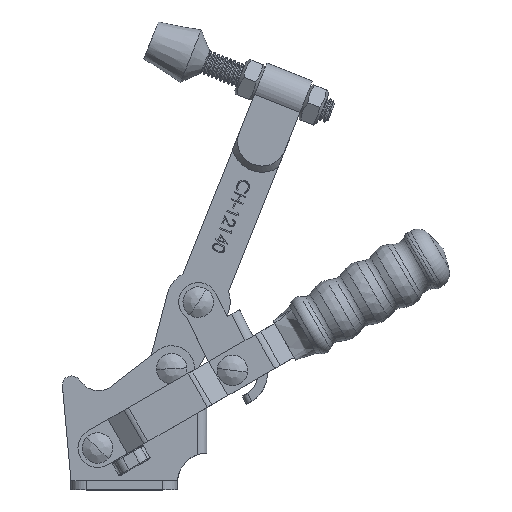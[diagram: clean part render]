
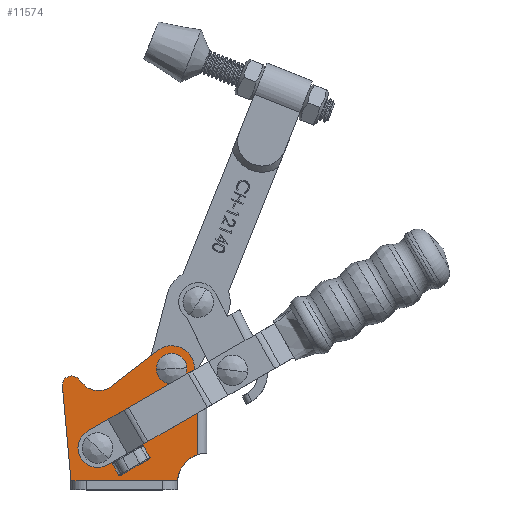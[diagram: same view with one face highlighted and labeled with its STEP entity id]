
A CAD part, top view. The second image highlights one B-rep face of the part: STEP entity #11574.
In plain terms, the highlighted planar face has unit normal (0, 0, 1).
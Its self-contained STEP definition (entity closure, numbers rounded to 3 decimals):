
#363=B_SPLINE_CURVE_WITH_KNOTS('',3,(#16172,#16173,#16174,#16175),
 .UNSPECIFIED.,.F.,.F.,(4,4),(-0.085,0.),.UNSPECIFIED.);
#364=B_SPLINE_CURVE_WITH_KNOTS('',3,(#16179,#16180,#16181,#16182),
 .UNSPECIFIED.,.F.,.F.,(4,4),(-0.278,-0.193),
 .UNSPECIFIED.);
#365=B_SPLINE_CURVE_WITH_KNOTS('',3,(#16186,#16187,#16188,#16189),
 .UNSPECIFIED.,.F.,.F.,(4,4),(-0.085,0.),.UNSPECIFIED.);
#366=B_SPLINE_CURVE_WITH_KNOTS('',3,(#16192,#16193,#16194,#16195),
 .UNSPECIFIED.,.F.,.F.,(4,4),(-0.278,-0.193),
 .UNSPECIFIED.);
#805=FACE_BOUND('',#1834,.T.);
#806=FACE_BOUND('',#1835,.T.);
#807=FACE_BOUND('',#1836,.T.);
#808=FACE_BOUND('',#1837,.T.);
#884=PLANE('',#12491);
#1182=FACE_OUTER_BOUND('',#1833,.T.);
#1833=EDGE_LOOP('',(#7927,#7928,#7929,#7930,#7931,#7932,#7933,#7934,#7935,
#7936,#7937,#7938));
#1834=EDGE_LOOP('',(#7939,#7940));
#1835=EDGE_LOOP('',(#7941,#7942));
#1836=EDGE_LOOP('',(#7943,#7944));
#1837=EDGE_LOOP('',(#7945,#7946,#7947,#7948,#7949,#7950,#7951,#7952));
#2570=LINE('',#16149,#3534);
#2571=LINE('',#16151,#3535);
#2572=LINE('',#16155,#3536);
#2573=LINE('',#16159,#3537);
#2574=LINE('',#16163,#3538);
#2575=LINE('',#16166,#3539);
#2576=LINE('',#16167,#3540);
#2577=LINE('',#16170,#3541);
#2578=LINE('',#16177,#3542);
#2579=LINE('',#16184,#3543);
#2580=LINE('',#16191,#3544);
#3534=VECTOR('',#13449,1000.);
#3535=VECTOR('',#13450,1000.);
#3536=VECTOR('',#13453,1000.);
#3537=VECTOR('',#13456,1000.);
#3538=VECTOR('',#13459,1000.);
#3539=VECTOR('',#13462,1000.);
#3540=VECTOR('',#13463,1000.);
#3541=VECTOR('',#13464,1000.);
#3542=VECTOR('',#13465,1000.);
#3543=VECTOR('',#13466,1000.);
#3544=VECTOR('',#13467,1000.);
#4501=CIRCLE('',#12466,3.);
#4503=CIRCLE('',#12469,1.95);
#4506=CIRCLE('',#12472,1.95);
#4507=CIRCLE('',#12474,3.2);
#4510=CIRCLE('',#12477,3.2);
#4511=CIRCLE('',#12479,3.2);
#4514=CIRCLE('',#12482,3.2);
#4521=CIRCLE('',#12492,9.5);
#4522=CIRCLE('',#12493,4.);
#4523=CIRCLE('',#12494,7.5);
#4524=CIRCLE('',#12495,7.);
#4864=VERTEX_POINT('',#16069);
#4865=VERTEX_POINT('',#16070);
#4868=VERTEX_POINT('',#16078);
#4869=VERTEX_POINT('',#16079);
#4872=VERTEX_POINT('',#16088);
#4873=VERTEX_POINT('',#16089);
#4876=VERTEX_POINT('',#16098);
#4877=VERTEX_POINT('',#16099);
#4898=VERTEX_POINT('',#16147);
#4899=VERTEX_POINT('',#16148);
#4900=VERTEX_POINT('',#16150);
#4901=VERTEX_POINT('',#16152);
#4902=VERTEX_POINT('',#16154);
#4903=VERTEX_POINT('',#16156);
#4904=VERTEX_POINT('',#16158);
#4905=VERTEX_POINT('',#16160);
#4906=VERTEX_POINT('',#16162);
#4907=VERTEX_POINT('',#16164);
#4908=VERTEX_POINT('',#16168);
#4909=VERTEX_POINT('',#16169);
#4910=VERTEX_POINT('',#16171);
#4911=VERTEX_POINT('',#16176);
#4912=VERTEX_POINT('',#16178);
#4913=VERTEX_POINT('',#16183);
#4914=VERTEX_POINT('',#16185);
#4915=VERTEX_POINT('',#16190);
#6081=EDGE_CURVE('',#4864,#4865,#4501,.T.);
#6085=EDGE_CURVE('',#4868,#4869,#4503,.T.);
#6089=EDGE_CURVE('',#4869,#4868,#4506,.T.);
#6090=EDGE_CURVE('',#4872,#4873,#4507,.T.);
#6094=EDGE_CURVE('',#4873,#4872,#4510,.T.);
#6095=EDGE_CURVE('',#4876,#4877,#4511,.T.);
#6099=EDGE_CURVE('',#4877,#4876,#4514,.T.);
#6119=EDGE_CURVE('',#4898,#4899,#2570,.T.);
#6120=EDGE_CURVE('',#4900,#4898,#2571,.T.);
#6121=EDGE_CURVE('',#4900,#4901,#4521,.T.);
#6122=EDGE_CURVE('',#4901,#4902,#2572,.T.);
#6123=EDGE_CURVE('',#4902,#4903,#4522,.T.);
#6124=EDGE_CURVE('',#4903,#4904,#2573,.T.);
#6125=EDGE_CURVE('',#4904,#4905,#4523,.T.);
#6126=EDGE_CURVE('',#4905,#4906,#2574,.T.);
#6127=EDGE_CURVE('',#4906,#4907,#4524,.T.);
#6128=EDGE_CURVE('',#4907,#4864,#2575,.T.);
#6129=EDGE_CURVE('',#4865,#4899,#2576,.T.);
#6130=EDGE_CURVE('',#4908,#4909,#2577,.T.);
#6131=EDGE_CURVE('',#4908,#4910,#363,.T.);
#6132=EDGE_CURVE('',#4910,#4911,#2578,.T.);
#6133=EDGE_CURVE('',#4911,#4912,#364,.T.);
#6134=EDGE_CURVE('',#4913,#4912,#2579,.T.);
#6135=EDGE_CURVE('',#4913,#4914,#365,.T.);
#6136=EDGE_CURVE('',#4914,#4915,#2580,.T.);
#6137=EDGE_CURVE('',#4915,#4909,#366,.T.);
#7927=ORIENTED_EDGE('',*,*,#6119,.F.);
#7928=ORIENTED_EDGE('',*,*,#6120,.F.);
#7929=ORIENTED_EDGE('',*,*,#6121,.T.);
#7930=ORIENTED_EDGE('',*,*,#6122,.T.);
#7931=ORIENTED_EDGE('',*,*,#6123,.T.);
#7932=ORIENTED_EDGE('',*,*,#6124,.T.);
#7933=ORIENTED_EDGE('',*,*,#6125,.T.);
#7934=ORIENTED_EDGE('',*,*,#6126,.T.);
#7935=ORIENTED_EDGE('',*,*,#6127,.T.);
#7936=ORIENTED_EDGE('',*,*,#6128,.T.);
#7937=ORIENTED_EDGE('',*,*,#6081,.T.);
#7938=ORIENTED_EDGE('',*,*,#6129,.T.);
#7939=ORIENTED_EDGE('',*,*,#6090,.F.);
#7940=ORIENTED_EDGE('',*,*,#6094,.F.);
#7941=ORIENTED_EDGE('',*,*,#6095,.F.);
#7942=ORIENTED_EDGE('',*,*,#6099,.F.);
#7943=ORIENTED_EDGE('',*,*,#6085,.F.);
#7944=ORIENTED_EDGE('',*,*,#6089,.F.);
#7945=ORIENTED_EDGE('',*,*,#6130,.F.);
#7946=ORIENTED_EDGE('',*,*,#6131,.T.);
#7947=ORIENTED_EDGE('',*,*,#6132,.T.);
#7948=ORIENTED_EDGE('',*,*,#6133,.T.);
#7949=ORIENTED_EDGE('',*,*,#6134,.F.);
#7950=ORIENTED_EDGE('',*,*,#6135,.T.);
#7951=ORIENTED_EDGE('',*,*,#6136,.T.);
#7952=ORIENTED_EDGE('',*,*,#6137,.T.);
#11574=ADVANCED_FACE('',(#1182,#805,#806,#807,#808),#884,.T.);
#12466=AXIS2_PLACEMENT_3D('',#16071,#13379,#13380);
#12469=AXIS2_PLACEMENT_3D('',#16080,#13387,#13388);
#12472=AXIS2_PLACEMENT_3D('',#16086,#13394,#13395);
#12474=AXIS2_PLACEMENT_3D('',#16090,#13398,#13399);
#12477=AXIS2_PLACEMENT_3D('',#16096,#13405,#13406);
#12479=AXIS2_PLACEMENT_3D('',#16100,#13409,#13410);
#12482=AXIS2_PLACEMENT_3D('',#16106,#13416,#13417);
#12491=AXIS2_PLACEMENT_3D('',#16146,#13447,#13448);
#12492=AXIS2_PLACEMENT_3D('',#16153,#13451,#13452);
#12493=AXIS2_PLACEMENT_3D('',#16157,#13454,#13455);
#12494=AXIS2_PLACEMENT_3D('',#16161,#13457,#13458);
#12495=AXIS2_PLACEMENT_3D('',#16165,#13460,#13461);
#13379=DIRECTION('center_axis',(0.,0.,1.));
#13380=DIRECTION('ref_axis',(1.,0.,0.));
#13387=DIRECTION('center_axis',(0.,0.,1.));
#13388=DIRECTION('ref_axis',(1.,0.,0.));
#13394=DIRECTION('center_axis',(0.,0.,1.));
#13395=DIRECTION('ref_axis',(1.,0.,0.));
#13398=DIRECTION('center_axis',(0.,0.,1.));
#13399=DIRECTION('ref_axis',(1.,0.,0.));
#13405=DIRECTION('center_axis',(0.,0.,1.));
#13406=DIRECTION('ref_axis',(1.,0.,0.));
#13409=DIRECTION('center_axis',(0.,0.,1.));
#13410=DIRECTION('ref_axis',(1.,0.,0.));
#13416=DIRECTION('center_axis',(0.,0.,1.));
#13417=DIRECTION('ref_axis',(1.,0.,0.));
#13447=DIRECTION('center_axis',(0.,0.,1.));
#13448=DIRECTION('ref_axis',(1.,0.,0.));
#13449=DIRECTION('',(-1.,0.,0.));
#13450=DIRECTION('',(0.,1.,0.));
#13451=DIRECTION('center_axis',(0.,0.,-1.));
#13452=DIRECTION('ref_axis',(1.,0.,0.));
#13453=DIRECTION('',(0.,1.,0.));
#13454=DIRECTION('center_axis',(0.,0.,-1.));
#13455=DIRECTION('ref_axis',(1.,0.,0.));
#13456=DIRECTION('',(0.,1.,0.));
#13457=DIRECTION('center_axis',(0.,0.,1.));
#13458=DIRECTION('ref_axis',(1.,0.,0.));
#13459=DIRECTION('',(-0.792,-0.611,0.));
#13460=DIRECTION('center_axis',(0.,0.,-1.));
#13461=DIRECTION('ref_axis',(1.,0.,0.));
#13462=DIRECTION('',(-0.677,0.736,0.));
#13463=DIRECTION('',(0.09,-0.996,0.));
#13464=DIRECTION('',(0.866,0.5,0.));
#13465=DIRECTION('',(-0.5,0.866,0.));
#13466=DIRECTION('',(-0.866,-0.5,0.));
#13467=DIRECTION('',(0.5,-0.866,0.));
#16069=CARTESIAN_POINT('',(-32.494,36.33,12.));
#16070=CARTESIAN_POINT('',(-37.691,34.031,12.));
#16071=CARTESIAN_POINT('Origin',(-34.703,34.3,12.));
#16078=CARTESIAN_POINT('',(-6.55,24.2,12.));
#16079=CARTESIAN_POINT('',(-2.65,24.2,12.));
#16080=CARTESIAN_POINT('Origin',(-4.6,24.2,12.));
#16086=CARTESIAN_POINT('Origin',(-4.6,24.2,12.));
#16088=CARTESIAN_POINT('',(-29.4,13.7,12.));
#16089=CARTESIAN_POINT('',(-23.,13.7,12.));
#16090=CARTESIAN_POINT('Origin',(-26.2,13.7,12.));
#16096=CARTESIAN_POINT('Origin',(-26.2,13.7,12.));
#16098=CARTESIAN_POINT('',(-5.1,39.7,12.));
#16099=CARTESIAN_POINT('',(1.3,39.7,12.));
#16100=CARTESIAN_POINT('Origin',(-1.9,39.7,12.));
#16106=CARTESIAN_POINT('Origin',(-1.9,39.7,12.));
#16146=CARTESIAN_POINT('Origin',(9.5,2.5,12.));
#16147=CARTESIAN_POINT('',(0.,3.,12.));
#16148=CARTESIAN_POINT('',(-34.9,3.,12.));
#16149=CARTESIAN_POINT('',(0.,3.,12.));
#16150=CARTESIAN_POINT('',(0.,2.5,12.));
#16151=CARTESIAN_POINT('',(0.,0.,12.));
#16152=CARTESIAN_POINT('',(6.6,11.547,12.));
#16153=CARTESIAN_POINT('Origin',(9.5,2.5,12.));
#16154=CARTESIAN_POINT('',(6.6,35.354,12.));
#16155=CARTESIAN_POINT('',(6.6,34.,12.));
#16156=CARTESIAN_POINT('',(5.6,38.,12.));
#16157=CARTESIAN_POINT('Origin',(9.6,38.,12.));
#16158=CARTESIAN_POINT('',(5.6,39.7,12.));
#16159=CARTESIAN_POINT('',(5.6,39.7,12.));
#16160=CARTESIAN_POINT('',(-6.481,45.639,12.));
#16161=CARTESIAN_POINT('Origin',(-1.9,39.7,12.));
#16162=CARTESIAN_POINT('',(-21.625,33.957,12.));
#16163=CARTESIAN_POINT('',(-21.625,33.957,12.));
#16164=CARTESIAN_POINT('',(-31.053,34.763,12.));
#16165=CARTESIAN_POINT('Origin',(-25.9,39.5,12.));
#16166=CARTESIAN_POINT('',(-32.494,36.33,12.));
#16167=CARTESIAN_POINT('',(-34.9,3.,12.));
#16168=CARTESIAN_POINT('',(-18.317,4.914,12.));
#16169=CARTESIAN_POINT('',(-9.583,9.956,12.));
#16170=CARTESIAN_POINT('',(-18.28,4.935,12.));
#16171=CARTESIAN_POINT('',(-19.186,4.758,12.));
#16172=CARTESIAN_POINT('Ctrl Pts',(-18.317,4.914,12.));
#16173=CARTESIAN_POINT('Ctrl Pts',(-18.562,4.772,12.));
#16174=CARTESIAN_POINT('Ctrl Pts',(-18.903,4.765,12.));
#16175=CARTESIAN_POINT('Ctrl Pts',(-19.186,4.758,12.));
#16176=CARTESIAN_POINT('',(-21.386,8.569,12.));
#16177=CARTESIAN_POINT('',(-21.536,8.829,12.));
#16178=CARTESIAN_POINT('',(-20.817,9.244,12.));
#16179=CARTESIAN_POINT('Ctrl Pts',(-21.386,8.569,12.));
#16180=CARTESIAN_POINT('Ctrl Pts',(-21.239,8.811,12.));
#16181=CARTESIAN_POINT('Ctrl Pts',(-21.062,9.102,12.));
#16182=CARTESIAN_POINT('Ctrl Pts',(-20.817,9.244,12.));
#16183=CARTESIAN_POINT('',(-12.083,14.286,12.));
#16184=CARTESIAN_POINT('',(-20.78,9.265,12.));
#16185=CARTESIAN_POINT('',(-11.214,14.442,12.));
#16186=CARTESIAN_POINT('Ctrl Pts',(-12.083,14.286,12.));
#16187=CARTESIAN_POINT('Ctrl Pts',(-11.838,14.428,12.));
#16188=CARTESIAN_POINT('Ctrl Pts',(-11.497,14.435,12.));
#16189=CARTESIAN_POINT('Ctrl Pts',(-11.214,14.442,12.));
#16190=CARTESIAN_POINT('',(-9.014,10.631,12.));
#16191=CARTESIAN_POINT('',(-8.864,10.371,12.));
#16192=CARTESIAN_POINT('Ctrl Pts',(-9.014,10.631,12.));
#16193=CARTESIAN_POINT('Ctrl Pts',(-9.161,10.389,12.));
#16194=CARTESIAN_POINT('Ctrl Pts',(-9.338,10.098,12.));
#16195=CARTESIAN_POINT('Ctrl Pts',(-9.583,9.956,12.));
